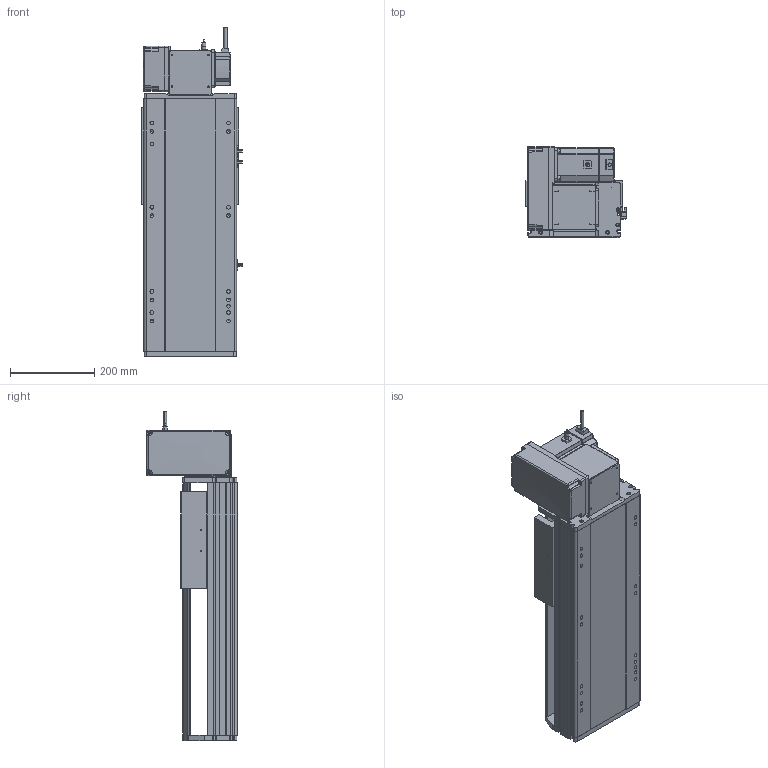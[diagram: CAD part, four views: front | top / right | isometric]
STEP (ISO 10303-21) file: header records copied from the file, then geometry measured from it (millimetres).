
FILE_DESCRIPTION (( 'STEP AP214' ), '1' );
FILE_NAME ('RTB22S-XX-250-LW-M75-C4.STEP', '2025-12-12T05:50:35', ( '' ), ( '' ), 'SwSTEP 2.0', 'SolidWorks 2018', '' );
FILE_SCHEMA (( 'AUTOMOTIVE_DESIGN' ));
Length unit declared in the file: millimetre
Products named in the file (14): 750W萇儂^RTB22S-XX-XX-LW-M75-C4; RTB22S-LW-々湍釱蚾饜^RTB22S-XX-XX-LW-M75-C4; RTB22S-GY-018P^RTB22S-LW-々湍釱蚾饜_RTB22S-XX-XX-LW-M75-C4; RTB22S-GY-014--々湍釱^RTB22S-LW-々湍釱蚾饜_RTB22S-XX-XX-LW-M75-C4; RTB22S-L-011菁釱^RTB22S-XX-XX-LW-M75-C4; RTB22S-XX-250-LW-M75-C4; RTB22S-GY-017P^RTB22S-LW-々湍釱蚾饜_RTB22S-XX-XX-LW-M75-C4; OMRON EE-SX672 传感器^RTB22S-XX-XX-LW-M75-C4; RTB22S-GY-008-M75--萇儂啣^RTB22S-LW-々湍釱蚾饜_RTB22S-XX-XX-LW-M75-C4; RTB22S-L-004賑釱^RTB22S-XX-XX-LW-M75-C4; RTB22S-GY-005P^RTB22S-LW-々湍釱蚾饜_RTB22S-XX-XX-LW-M75-C4; RTB22S-GY-007奻裔^RTB22S-XX-XX-LW-M75-C4; RTH22-GY-013外置感应片^RTB22S-XX-XX-LW-M75-C4; RTB22S-GY-001耜裔^RTB22S-XX-XX-LW-M75-C4
Assembly tree (16 placements, depth 3):
  RTB22S-XX-250-LW-M75-C4
    RTB22S-L-011菁釱^RTB22S-XX-XX-LW-M75-C4
    RTB22S-GY-001耜裔^RTB22S-XX-XX-LW-M75-C4
    750W萇儂^RTB22S-XX-XX-LW-M75-C4
    RTB22S-GY-007奻裔^RTB22S-XX-XX-LW-M75-C4
    RTB22S-L-004賑釱^RTB22S-XX-XX-LW-M75-C4
    RTH22-GY-013外置感应片^RTB22S-XX-XX-LW-M75-C4
    OMRON EE-SX672 传感器^RTB22S-XX-XX-LW-M75-C4  x3
    RTB22S-LW-々湍釱蚾饜^RTB22S-XX-XX-LW-M75-C4
      RTB22S-GY-014--々湍釱^RTB22S-LW-々湍釱蚾饜_RTB22S-XX-XX-LW-M75-C4
      RTB22S-GY-017P^RTB22S-LW-々湍釱蚾饜_RTB22S-XX-XX-LW-M75-C4  x2
      RTB22S-GY-005P^RTB22S-LW-々湍釱蚾饜_RTB22S-XX-XX-LW-M75-C4
      RTB22S-GY-008-M75--萇儂啣^RTB22S-LW-々湍釱蚾饜_RTB22S-XX-XX-LW-M75-C4
      RTB22S-GY-018P^RTB22S-LW-々湍釱蚾饜_RTB22S-XX-XX-LW-M75-C4
Bounding box: 238.5 x 215.5 x 782.2 mm (x, y, z)
Volume: 12547978.4 mm3; surface area: 1343717 mm2
Topology: 15 solids, 15 shells, 1911 faces, 5186 edges, 3332 vertices
Faces by surface type: plane 907, cylinder 574, bspline 296, cone 122, sphere 8, torus 4
Entity records: 50136 total; most frequent: CARTESIAN_POINT 14580, ORIENTED_EDGE 7192, DIRECTION 6850, EDGE_CURVE 3596, AXIS2_PLACEMENT_3D 2390, VERTEX_POINT 2336, LINE 2070, VECTOR 2070
